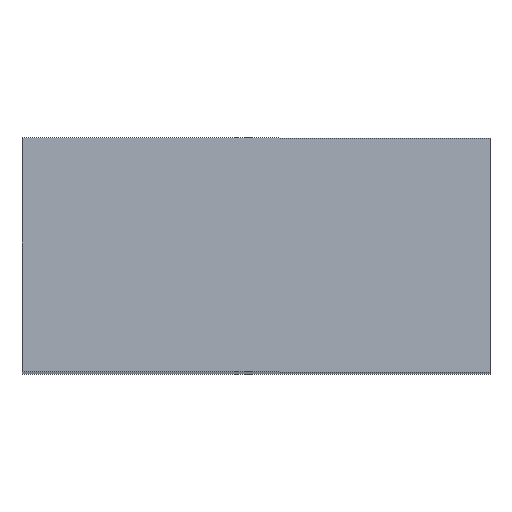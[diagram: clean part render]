
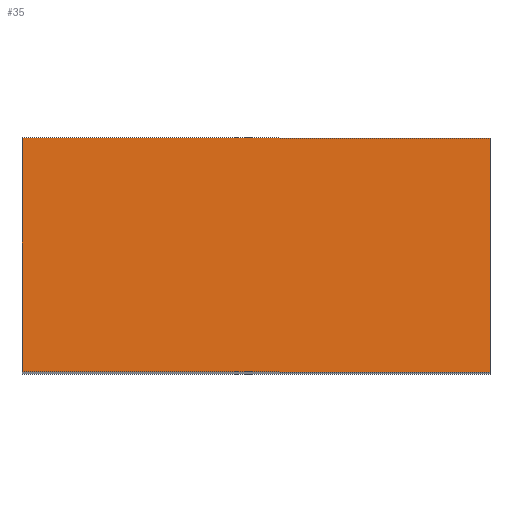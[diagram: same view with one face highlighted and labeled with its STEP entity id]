
A CAD part, top view. The second image highlights one B-rep face of the part: STEP entity #35.
In plain terms, the highlighted planar face has unit normal (0.707, 0, 0.707).
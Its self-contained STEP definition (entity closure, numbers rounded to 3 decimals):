
#35=ADVANCED_FACE('',(#51),#517,.T.);
#51=FACE_OUTER_BOUND('',#71,.T.);
#71=EDGE_LOOP('',(#112,#113,#114,#115));
#112=ORIENTED_EDGE('',*,*,#374,.F.);
#113=ORIENTED_EDGE('',*,*,#368,.F.);
#114=ORIENTED_EDGE('',*,*,#379,.F.);
#115=ORIENTED_EDGE('',*,*,#364,.F.);
#184=PCURVE('',#512,#256);
#188=PCURVE('',#513,#260);
#199=PCURVE('',#515,#271);
#204=PCURVE('',#516,#276);
#212=PCURVE('',#517,#284);
#213=PCURVE('',#517,#285);
#214=PCURVE('',#517,#286);
#215=PCURVE('',#517,#287);
#256=DEFINITIONAL_REPRESENTATION('',(#401),#1249);
#260=DEFINITIONAL_REPRESENTATION('',(#409),#1249);
#271=DEFINITIONAL_REPRESENTATION('',(#426),#1249);
#276=DEFINITIONAL_REPRESENTATION('',(#432),#1249);
#284=DEFINITIONAL_REPRESENTATION('',(#440),#1249);
#285=DEFINITIONAL_REPRESENTATION('',(#441),#1249);
#286=DEFINITIONAL_REPRESENTATION('',(#442),#1249);
#287=DEFINITIONAL_REPRESENTATION('',(#443),#1249);
#328=SURFACE_CURVE('',#400,(#184,#215),.PCURVE_S1.);
#332=SURFACE_CURVE('',#408,(#188,#213),.PCURVE_S1.);
#338=SURFACE_CURVE('',#425,(#199,#212),.PCURVE_S1.);
#343=SURFACE_CURVE('',#431,(#204,#214),.PCURVE_S1.);
#364=EDGE_CURVE('',#484,#485,#328,.T.);
#368=EDGE_CURVE('',#486,#487,#332,.T.);
#374=EDGE_CURVE('',#487,#484,#338,.T.);
#379=EDGE_CURVE('',#485,#486,#343,.T.);
#400=B_SPLINE_CURVE_WITH_KNOTS('',1,(#738,#739),.UNSPECIFIED.,.F.,.F.,(2,
2),(10.,30.),.UNSPECIFIED.);
#401=B_SPLINE_CURVE_WITH_KNOTS('',1,(#740,#741),.UNSPECIFIED.,.F.,.F.,(2,
2),(10.,30.),.UNSPECIFIED.);
#408=B_SPLINE_CURVE_WITH_KNOTS('',1,(#754,#755),.UNSPECIFIED.,.F.,.F.,(2,
2),(-30.,-10.),.UNSPECIFIED.);
#409=B_SPLINE_CURVE_WITH_KNOTS('',3,(#756,#757,#758,#759),.UNSPECIFIED.,
 .F.,.F.,(4,4),(-30.,-10.),.UNSPECIFIED.);
#425=B_SPLINE_CURVE_WITH_KNOTS('',1,(#790,#791),.UNSPECIFIED.,.F.,.F.,(2,
2),(12.728,69.296),.UNSPECIFIED.);
#426=B_SPLINE_CURVE_WITH_KNOTS('',3,(#792,#793,#794,#795),.UNSPECIFIED.,
 .F.,.F.,(4,4),(12.728,69.296),.UNSPECIFIED.);
#431=B_SPLINE_CURVE_WITH_KNOTS('',1,(#916,#917),.UNSPECIFIED.,.F.,.F.,(2,
2),(-69.296,-12.728),.UNSPECIFIED.);
#432=B_SPLINE_CURVE_WITH_KNOTS('',3,(#918,#919,#920,#921),.UNSPECIFIED.,
 .F.,.F.,(4,4),(-69.296,-12.728),.UNSPECIFIED.);
#440=B_SPLINE_CURVE_WITH_KNOTS('',1,(#1048,#1049),.UNSPECIFIED.,.F.,.F.,
(2,2),(12.728,69.296),.UNSPECIFIED.);
#441=B_SPLINE_CURVE_WITH_KNOTS('',1,(#1050,#1051),.UNSPECIFIED.,.F.,.F.,
(2,2),(-30.,-10.),.UNSPECIFIED.);
#442=B_SPLINE_CURVE_WITH_KNOTS('',1,(#1052,#1053),.UNSPECIFIED.,.F.,.F.,
(2,2),(-69.296,-12.728),.UNSPECIFIED.);
#443=B_SPLINE_CURVE_WITH_KNOTS('',1,(#1054,#1055),.UNSPECIFIED.,.F.,.F.,
(2,2),(10.,30.),.UNSPECIFIED.);
#484=VERTEX_POINT('',#718);
#485=VERTEX_POINT('',#719);
#486=VERTEX_POINT('',#720);
#487=VERTEX_POINT('',#721);
#512=PLANE('',#540);
#513=PLANE('',#541);
#515=PLANE('',#543);
#516=PLANE('',#544);
#517=PLANE('',#545);
#540=AXIS2_PLACEMENT_3D('',#562,#551,$);
#541=AXIS2_PLACEMENT_3D('',#563,#552,$);
#543=AXIS2_PLACEMENT_3D('',#565,#554,$);
#544=AXIS2_PLACEMENT_3D('',#566,#555,$);
#545=AXIS2_PLACEMENT_3D('',#567,#556,$);
#551=DIRECTION('',(-1.,0.,0.));
#552=DIRECTION('',(1.,0.,0.));
#554=DIRECTION('',(0.,-1.,0.));
#555=DIRECTION('',(0.,1.,0.));
#556=DIRECTION('',(0.707,0.,0.707));
#562=CARTESIAN_POINT('',(-490.,10.,-26.));
#563=CARTESIAN_POINT('',(-450.,10.,120.));
#565=CARTESIAN_POINT('',(-450.,10.,-26.));
#566=CARTESIAN_POINT('',(-450.,30.,-26.));
#567=CARTESIAN_POINT('',(-441.,0.,67.));
#718=CARTESIAN_POINT('',(-490.,10.,116.));
#719=CARTESIAN_POINT('',(-490.,30.,116.));
#720=CARTESIAN_POINT('',(-450.,30.,76.));
#721=CARTESIAN_POINT('',(-450.,10.,76.));
#738=CARTESIAN_POINT('',(-490.,10.,116.));
#739=CARTESIAN_POINT('',(-490.,30.,116.));
#740=CARTESIAN_POINT('',(-230.,0.));
#741=CARTESIAN_POINT('',(-230.,20.));
#754=CARTESIAN_POINT('',(-450.,30.,76.));
#755=CARTESIAN_POINT('',(-450.,10.,76.));
#756=CARTESIAN_POINT('',(-142.,20.));
#757=CARTESIAN_POINT('',(-142.,13.333));
#758=CARTESIAN_POINT('',(-142.,6.667));
#759=CARTESIAN_POINT('',(-142.,0.));
#790=CARTESIAN_POINT('',(-450.,10.,76.));
#791=CARTESIAN_POINT('',(-490.,10.,116.));
#792=CARTESIAN_POINT('',(102.,-40.));
#793=CARTESIAN_POINT('',(115.333,-26.667));
#794=CARTESIAN_POINT('',(128.667,-13.333));
#795=CARTESIAN_POINT('',(142.,0.));
#916=CARTESIAN_POINT('',(-490.,30.,116.));
#917=CARTESIAN_POINT('',(-450.,30.,76.));
#918=CARTESIAN_POINT('',(0.,142.));
#919=CARTESIAN_POINT('',(-13.333,128.667));
#920=CARTESIAN_POINT('',(-26.667,115.333));
#921=CARTESIAN_POINT('',(-40.,102.));
#1048=CARTESIAN_POINT('',(10.,12.728));
#1049=CARTESIAN_POINT('',(10.,69.296));
#1050=CARTESIAN_POINT('',(30.,12.728));
#1051=CARTESIAN_POINT('',(10.,12.728));
#1052=CARTESIAN_POINT('',(30.,69.296));
#1053=CARTESIAN_POINT('',(30.,12.728));
#1054=CARTESIAN_POINT('',(10.,69.296));
#1055=CARTESIAN_POINT('',(30.,69.296));
#1249=(
GEOMETRIC_REPRESENTATION_CONTEXT(2)
PARAMETRIC_REPRESENTATION_CONTEXT()
REPRESENTATION_CONTEXT('pspace','')
);
